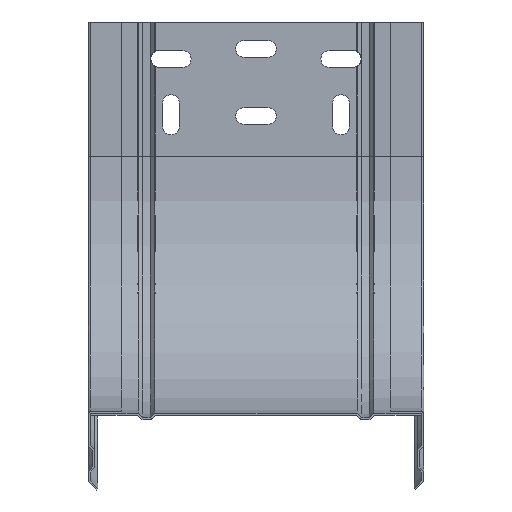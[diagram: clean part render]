
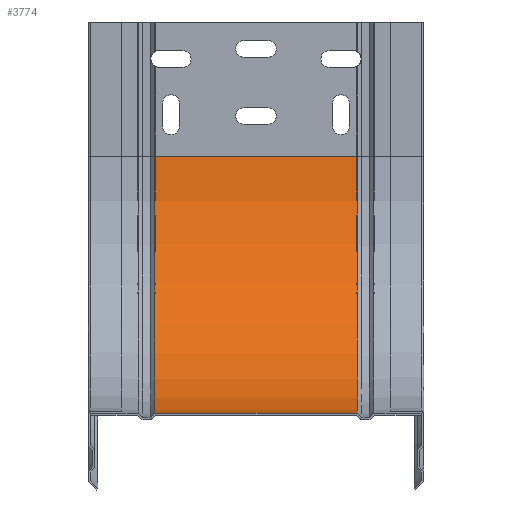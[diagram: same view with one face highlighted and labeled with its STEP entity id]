
A CAD part, front view. The second image highlights one B-rep face of the part: STEP entity #3774.
In plain terms, the highlighted cylindrical face has radius 115 mm (diameter 230 mm), a partial arc.
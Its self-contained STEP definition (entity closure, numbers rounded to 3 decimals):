
#123 = DIRECTION ( 'NONE',  ( 1., 0., 0. ) ) ;
#206 = LINE ( 'NONE', #1982, #1036 ) ;
#557 = ORIENTED_EDGE ( 'NONE', *, *, #1721, .T. ) ;
#682 = CIRCLE ( 'NONE', #4018, 115. ) ;
#748 = AXIS2_PLACEMENT_3D ( 'NONE', #1851, #3583, #3166 ) ;
#876 = AXIS2_PLACEMENT_3D ( 'NONE', #3974, #3548, #5263 ) ;
#914 = EDGE_CURVE ( 'NONE', #4390, #1674, #4982, .T. ) ;
#1036 = VECTOR ( 'NONE', #2747, 1000. ) ;
#1471 = DIRECTION ( 'NONE',  ( -1., 0., 0. ) ) ;
#1674 = VERTEX_POINT ( 'NONE', #3379 ) ;
#1698 = EDGE_CURVE ( 'NONE', #4195, #5402, #682, .T. ) ;
#1721 = EDGE_CURVE ( 'NONE', #1674, #5402, #206, .T. ) ;
#1851 = CARTESIAN_POINT ( 'NONE',  ( -45.331, -115., -60. ) ) ;
#1982 = CARTESIAN_POINT ( 'NONE',  ( -45.331, -115., -175. ) ) ;
#2315 = VECTOR ( 'NONE', #123, 1000. ) ;
#2368 = CARTESIAN_POINT ( 'NONE',  ( 45.331, -115., -60. ) ) ;
#2607 = ORIENTED_EDGE ( 'NONE', *, *, #1698, .F. ) ;
#2678 = CYLINDRICAL_SURFACE ( 'NONE', #876, 115. ) ;
#2747 = DIRECTION ( 'NONE',  ( 1., 0., 0. ) ) ;
#2748 = LINE ( 'NONE', #3988, #2315 ) ;
#2784 = ORIENTED_EDGE ( 'NONE', *, *, #3499, .F. ) ;
#3166 = DIRECTION ( 'NONE',  ( 0., 0., 1. ) ) ;
#3379 = CARTESIAN_POINT ( 'NONE',  ( -45.331, -115., -175. ) ) ;
#3499 = EDGE_CURVE ( 'NONE', #4390, #4195, #2748, .T. ) ;
#3548 = DIRECTION ( 'NONE',  ( -1., 0., 0. ) ) ;
#3583 = DIRECTION ( 'NONE',  ( -1., 0., 0. ) ) ;
#3692 = CARTESIAN_POINT ( 'NONE',  ( -45.331, 0., -60. ) ) ;
#3774 = ADVANCED_FACE ( 'NONE', ( #4823 ), #2678, .F. ) ;
#3884 = EDGE_LOOP ( 'NONE', ( #2784, #5019, #557, #2607 ) ) ;
#3967 = CARTESIAN_POINT ( 'NONE',  ( 45.331, 0., -60. ) ) ;
#3974 = CARTESIAN_POINT ( 'NONE',  ( 0., -115., -60. ) ) ;
#3988 = CARTESIAN_POINT ( 'NONE',  ( -45.331, 0., -60. ) ) ;
#4018 = AXIS2_PLACEMENT_3D ( 'NONE', #2368, #1471, #4890 ) ;
#4195 = VERTEX_POINT ( 'NONE', #3967 ) ;
#4390 = VERTEX_POINT ( 'NONE', #3692 ) ;
#4823 = FACE_OUTER_BOUND ( 'NONE', #3884, .T. ) ;
#4890 = DIRECTION ( 'NONE',  ( 0., 0., 1. ) ) ;
#4982 = CIRCLE ( 'NONE', #748, 115. ) ;
#5019 = ORIENTED_EDGE ( 'NONE', *, *, #914, .T. ) ;
#5025 = CARTESIAN_POINT ( 'NONE',  ( 45.331, -115., -175. ) ) ;
#5263 = DIRECTION ( 'NONE',  ( 0., 0., 1. ) ) ;
#5402 = VERTEX_POINT ( 'NONE', #5025 ) ;
